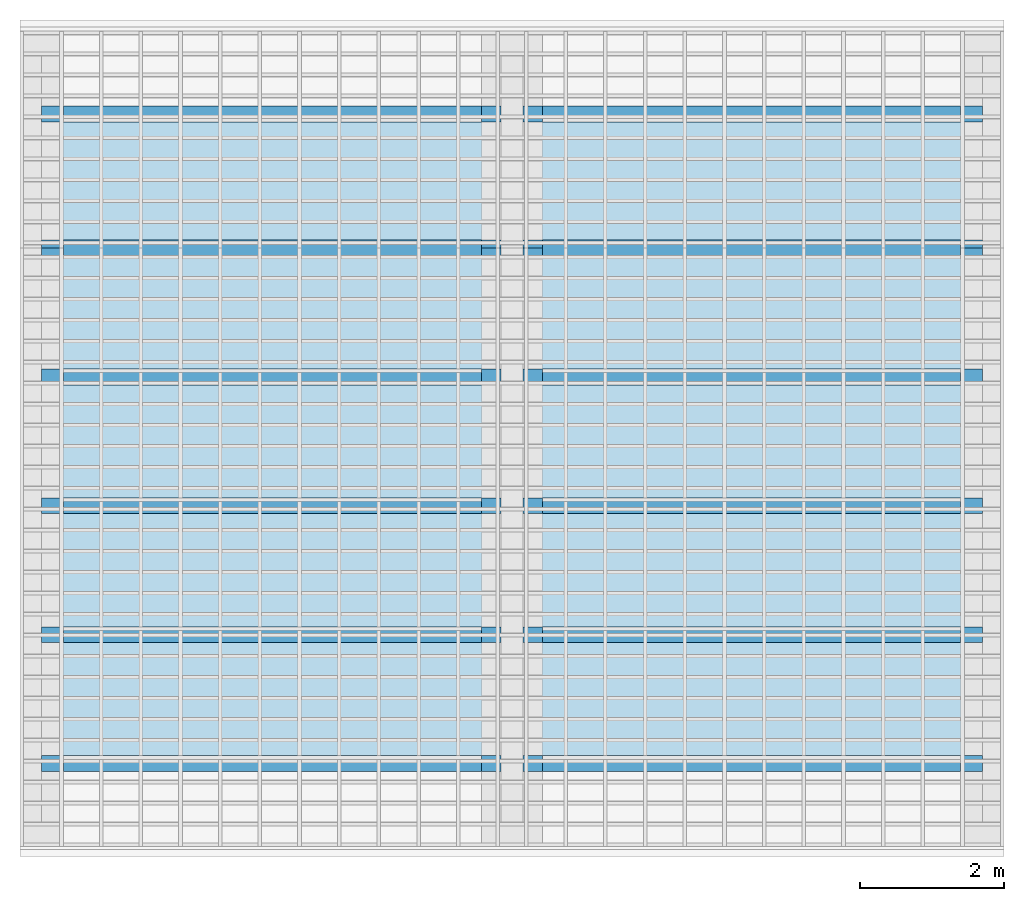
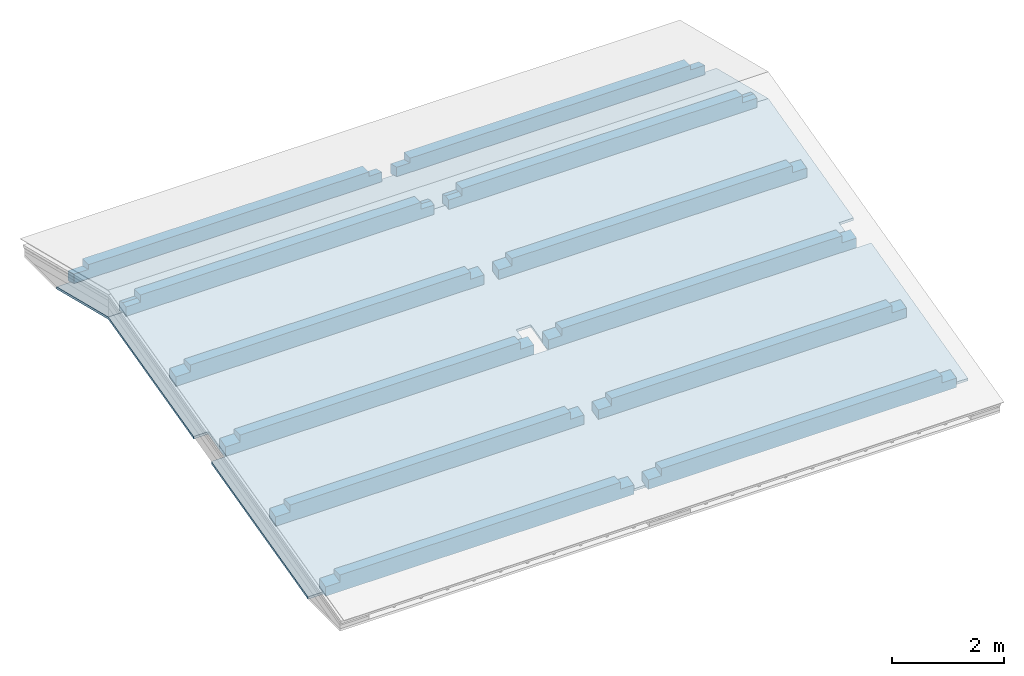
# One storey, part 3 of 3: 12 beams, 1 roof.
"""IFC2X3 building model written with IfcOpenShell, lengths in millimetres."""

from ifc_helpers import new_model, entity, si_unit, converted_unit, derived_unit, money_unit, direction, frame, frame_2d, origin_with_axes, place, context, subcontext, project, spatial, rectangle, extrude, boolean, faceted_brep, material, type_object, element, save


model = new_model("IFC2X3")

# Units and contexts
model_context = context("Model", 3, precision=0.01, world=origin_with_axes(), true_north=direction((0.293984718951, 0.955810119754)))
body_context = subcontext(model_context, "Body", "Model", "MODEL_VIEW")
ifc_project = project(units=[si_unit("LENGTHUNIT", "METRE", prefix="MILLI"), si_unit("AREAUNIT", "SQUARE_METRE"), si_unit("VOLUMEUNIT", "CUBIC_METRE"), converted_unit("PLANEANGLEUNIT", "DEGREE", entity("IfcPlaneAngleMeasure", 0.0174532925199), si_unit("PLANEANGLEUNIT", "RADIAN"), dimensions=[0, 0, 0, 0, 0, 0, 0]), si_unit("SOLIDANGLEUNIT", "STERADIAN"), money_unit("USD"), converted_unit("TIMEUNIT", "Year", entity("IfcTimeMeasure", 31556926.0), si_unit("TIMEUNIT", "SECOND"), dimensions=[0, 0, 1, 0, 0, 0, 0]), si_unit("MASSUNIT", "GRAM", prefix="KILO"), si_unit("THERMODYNAMICTEMPERATUREUNIT", "DEGREE_CELSIUS"), si_unit("LUMINOUSINTENSITYUNIT", "LUMEN"), si_unit("ENERGYUNIT", "JOULE", prefix="MEGA"), derived_unit("THERMALCONDUCTANCEUNIT", [(si_unit("POWERUNIT", "WATT"), 1), (si_unit("LENGTHUNIT", "METRE"), -1), (si_unit("THERMODYNAMICTEMPERATUREUNIT", "KELVIN"), -1)]), derived_unit("SPECIFICHEATCAPACITYUNIT", [(si_unit("ENERGYUNIT", "JOULE"), 1), (si_unit("MASSUNIT", "GRAM", prefix="KILO"), -1), (si_unit("THERMODYNAMICTEMPERATUREUNIT", "KELVIN"), -1)]), derived_unit("MASSDENSITYUNIT", [(si_unit("MASSUNIT", "GRAM", prefix="KILO"), 1), (si_unit("VOLUMEUNIT", "CUBIC_METRE"), -1)])], contexts=[model_context])

# Site, building, storey
site_placement = place(None, origin_with_axes())
site = spatial("IfcSite", under=ifc_project, at=site_placement, Name="Local", CompositionType="ELEMENT")
building_placement = place(site_placement, origin_with_axes())
building = spatial("IfcBuilding", under=site, at=building_placement, Name="Construção", CompositionType="ELEMENT")
storey_placement = place(building_placement, frame((0.0, 0.0, 5800.0), z_axis=(0.0, 0.0, 1.0), x_axis=(1.0, 0.0, 0.0)))
storey = spatial("IfcBuildingStorey", under=building, at=storey_placement, Name="Pavimento Cobertura", CompositionType="ELEMENT", Elevation=5800.0)

# Beams
ifc_material = material(Name="Concreto Armado - Estrutural")
beam_type = type_object("IfcBeamType", Name="Concreto Armado - Estrutural 220 x 360", PredefinedType="NOTDEFINED")
beam_1_placement = place(storey_placement, frame((20349.6450723, 12645.6308554, 23.3602179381), z_axis=(0.0, 0.0, 1.0), x_axis=(0.0, 1.0, 0.0)))
element("IfcBeam", 1, at=beam_1_placement, inside=storey, type_object=beam_type, material=ifc_material, Name="V13", context=body_context, shape_type="CSG", body=[
    boolean("DIFFERENCE", boolean("DIFFERENCE", boolean("DIFFERENCE", extrude(rectangle(XDim=360.0, YDim=220.0, at=frame_2d((180.0, 0.0), x_axis=(1.0, 0.0))), frame((0.0, 0.0, 0.0), z_axis=(0.0, 1.0, 0.0), x_axis=(0.0, 0.0, 1.0)), (0.0, 0.0, 1.0), 6370.0000003), faceted_brep([(-110.0, 6094.99999959, 360.0), (109.999999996, 6094.99999959, 359.999999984), (110.0, 6370.0000003, 360.0), (-110.0, 6370.0000003, 360.0), (110.000000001, 6094.99999959, 205.407955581), (-110.0, 6094.99999959, 260.260116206), (110.0, 6370.0000003, 205.407955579), (-110.0, 6370.0000003, 260.260116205)], [[[0, 1, 2, 3]], [[4, 1, 0, 5]], [[4, 6, 2, 1]], [[6, 7, 3, 2]], [[5, 0, 3, 7]], [[6, 4, 5, 7]]])), faceted_brep([(-99.5450602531, 6370.0000003, 0.0), (-99.5450603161, 0.0, 0.0), (-110.0, 0.0, 0.0), (-110.0, 6370.0000003, 0.0), (-110.0, 0.0, 2.60670923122), (-110.0, 6370.0000003, 2.60670924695)], [[[0, 1, 2, 3]], [[4, 1, 0, 5]], [[1, 4, 2]], [[4, 5, 3, 2]], [[5, 0, 3]]])), faceted_brep([(-110.0, 0.0, 260.260116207), (110.0, 0.0, 205.407955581), (110.0, 0.0, 360.0), (-110.0, 0.0, 360.0), (110.0, 300.000000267, 205.407955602), (-110.0, 300.000000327, 260.260116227), (110.000000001, 300.000000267, 360.000000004), (-110.0, 300.000000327, 360.0)], [[[0, 1, 2, 3]], [[4, 1, 0, 5]], [[4, 6, 2, 1]], [[6, 7, 3, 2]], [[5, 0, 3, 7]], [[7, 6, 4, 5]]])),
])
beam_2_placement = place(storey_placement, frame((20349.6450715, 10787.3064983, 486.692518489), z_axis=(0.0, 0.0, 1.0), x_axis=(0.0, 1.0, 0.0)))
element("IfcBeam", 2, at=beam_2_placement, inside=storey, type_object=beam_type, material=ifc_material, Name="V13", context=body_context, shape_type="CSG", body=[
    boolean("DIFFERENCE", boolean("DIFFERENCE", extrude(rectangle(XDim=360.0, YDim=220.0, at=frame_2d((180.0, 0.0), x_axis=(1.0, 0.0))), frame((0.0, 0.0, 0.0), z_axis=(0.0, 1.0, 0.0), x_axis=(0.0, 0.0, 1.0)), (0.0, 0.0, 1.0), 6369.99999874), faceted_brep([(-110.000000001, 6094.99999874, 360.000000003), (109.999999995, 6094.99999875, 359.999999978), (110.0, 6369.99999874, 360.0), (-110.0, 6369.99999874, 360.0), (110.0, 6094.99999875, 205.407955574), (-110.0, 6094.99999874, 205.407955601), (-5.32303090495e-08, 6094.99999874, 232.8340359), (110.0, 6369.99999874, 205.407955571), (-6.13002981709e-08, 6369.99999874, 232.834035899), (-110.0, 6369.99999874, 205.407955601)], [[[0, 1, 2, 3]], [[4, 1, 0, 5, 6]], [[4, 7, 2, 1]], [[8, 9, 3, 2, 7]], [[5, 0, 3, 9]], [[5, 9, 8, 6]], [[7, 4, 6, 8]]])), faceted_brep([(-110.0, 0.0, 205.407955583), (6.63593624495e-08, 0.0, 232.834035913), (110.0, 0.0, 205.407955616), (110.0, 0.0, 360.0), (-110.0, 0.0, 360.0), (-110.0, 299.999999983, 205.407955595), (7.92788057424e-08, 300.0, 232.834035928), (110.0, 299.999999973, 205.407955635), (110.000000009, 299.999999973, 360.000000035), (-109.999999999, 299.999999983, 359.999999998)], [[[0, 1, 2, 3, 4]], [[1, 0, 5, 6]], [[7, 2, 1, 6]], [[7, 8, 3, 2]], [[8, 9, 4, 3]], [[5, 0, 4, 9]], [[9, 8, 7, 6, 5]]])),
])
beam_3_placement = place(storey_placement, frame((20349.6450715, 9000.43149838, 41.1745407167), z_axis=(0.0, 0.0, 1.0), x_axis=(0.0, 1.0, 0.0)))
element("IfcBeam", 3, at=beam_3_placement, inside=storey, type_object=beam_type, material=ifc_material, Name="V13", context=body_context, shape_type="CSG", body=[
    boolean("DIFFERENCE", boolean("DIFFERENCE", boolean("DIFFERENCE", extrude(rectangle(XDim=360.0, YDim=220.0, at=frame_2d((180.0, 0.0), x_axis=(1.0, 0.0))), frame((0.0, 0.0, 0.0), z_axis=(0.0, 1.0, 0.0), x_axis=(0.0, 0.0, 1.0)), (0.0, 0.0, 1.0), 6369.99999874), faceted_brep([(-110.000000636, 6094.99999876, 360.000002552), (110.0, 6094.99999876, 360.0), (110.0, 6369.99999874, 360.0), (-110.0, 6369.99999874, 360.0), (110.0, 6094.99999876, 260.260118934), (-110.0, 6094.99999876, 205.407958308), (110.0, 6369.99999874, 260.260118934), (-110.0, 6369.99999874, 205.407958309)], [[[0, 1, 2, 3]], [[4, 1, 0, 5]], [[4, 6, 2, 1]], [[6, 7, 3, 2]], [[5, 0, 3, 7]], [[6, 4, 5, 7]]])), faceted_brep([(110.0, 6369.99999874, 2.60671178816), (110.0, 0.0, 2.60671176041), (110.0, 0.0, 0.0), (110.0, 6369.99999874, 0.0), (99.5450501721, 0.0, 0.0), (99.5450500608, 6369.99999874, 0.0)], [[[0, 1, 2, 3]], [[4, 1, 0, 5]], [[1, 4, 2]], [[4, 5, 3, 2]], [[5, 0, 3]]])), faceted_brep([(-110.0, 0.0, 205.407958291), (110.0, 0.0, 260.260118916), (110.0, 0.0, 360.0), (-110.0, 0.0, 360.0), (110.0, 299.99999977, 260.260118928), (-110.0, 299.999999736, 205.407958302), (110.0, 299.99999977, 360.0), (-110.000000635, 299.999999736, 360.000002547)], [[[0, 1, 2, 3]], [[4, 1, 0, 5]], [[4, 6, 2, 1]], [[6, 7, 3, 2]], [[5, 0, 3, 7]], [[7, 6, 4, 5]]])),
])
beam_4_placement = place(storey_placement, frame((20349.6450715, 7213.55649844, -404.343437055), z_axis=(0.0, 0.0, 1.0), x_axis=(0.0, 1.0, 0.0)))
element("IfcBeam", 4, at=beam_4_placement, inside=storey, type_object=beam_type, material=ifc_material, Name="V13", context=body_context, shape_type="CSG", body=[
    boolean("DIFFERENCE", boolean("DIFFERENCE", boolean("DIFFERENCE", extrude(rectangle(XDim=360.0, YDim=220.0, at=frame_2d((180.0, 0.0), x_axis=(1.0, 0.0))), frame((0.0, 0.0, 0.0), z_axis=(0.0, 1.0, 0.0), x_axis=(0.0, 0.0, 1.0)), (0.0, 0.0, 1.0), 6369.99999874), faceted_brep([(-110.000001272, 6094.99999879, 360.000005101), (110.0, 6094.99999879, 360.0), (110.0, 6369.99999874, 360.0), (-110.0, 6369.99999874, 360.0), (110.0, 6094.99999879, 260.260121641), (-110.0, 6094.99999879, 205.407961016), (110.0, 6369.99999874, 260.260121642), (-110.0, 6369.99999874, 205.407961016)], [[[0, 1, 2, 3]], [[4, 1, 0, 5]], [[4, 6, 2, 1]], [[6, 7, 3, 2]], [[5, 0, 3, 7]], [[6, 4, 5, 7]]])), faceted_brep([(110.0, 6369.99999874, 2.60671449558), (110.0, 0.0, 2.60671446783), (110.0, 0.0, 0.0), (110.0, 6369.99999874, 0.0), (99.5450393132, 0.0, 0.0), (99.545039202, 6369.99999874, 0.0)], [[[0, 1, 2, 3]], [[4, 1, 0, 5]], [[1, 4, 2]], [[4, 5, 3, 2]], [[5, 0, 3]]])), faceted_brep([(-110.0, 0.0, 205.407960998), (110.0, 0.0, 260.260121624), (110.0, 0.0, 360.0), (-110.0, 0.0, 360.0), (110.0, 299.999999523, 260.260121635), (-110.0, 299.999999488, 205.40796101), (110.0, 299.999999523, 360.0), (-110.00000127, 299.999999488, 360.000005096)], [[[0, 1, 2, 3]], [[4, 1, 0, 5]], [[4, 6, 2, 1]], [[6, 7, 3, 2]], [[5, 0, 3, 7]], [[7, 6, 4, 5]]])),
])
beam_5_placement = place(storey_placement, frame((20349.6450715, 5426.6814985, -849.861414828), z_axis=(0.0, 0.0, 1.0), x_axis=(0.0, 1.0, 0.0)))
element("IfcBeam", 5, at=beam_5_placement, inside=storey, type_object=beam_type, material=ifc_material, Name="V13", context=body_context, shape_type="CSG", body=[
    boolean("DIFFERENCE", boolean("DIFFERENCE", boolean("DIFFERENCE", extrude(rectangle(XDim=360.0, YDim=220.0, at=frame_2d((180.0, 0.0), x_axis=(1.0, 0.0))), frame((0.0, 0.0, 0.0), z_axis=(0.0, 1.0, 0.0), x_axis=(0.0, 0.0, 1.0)), (0.0, 0.0, 1.0), 6369.99999874), faceted_brep([(-110.000001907, 6094.99999881, 360.00000765), (110.0, 6094.99999881, 360.0), (110.0, 6369.99999874, 360.0), (-110.0, 6369.99999874, 360.0), (110.0, 6094.99999881, 260.260124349), (-110.0, 6094.99999881, 205.407963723), (110.0, 6369.99999874, 260.260124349), (-110.0, 6369.99999874, 205.407963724)], [[[0, 1, 2, 3]], [[4, 1, 0, 5]], [[4, 6, 2, 1]], [[6, 7, 3, 2]], [[5, 0, 3, 7]], [[6, 4, 5, 7]]])), faceted_brep([(110.0, 6369.99999874, 2.606717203), (110.0, 0.0, 2.60671717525), (110.0, 0.0, 0.0), (110.0, 6369.99999874, 0.0), (99.5450284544, 0.0, 0.0), (99.5450283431, 6369.99999874, 0.0)], [[[0, 1, 2, 3]], [[4, 1, 0, 5]], [[1, 4, 2]], [[4, 5, 3, 2]], [[5, 0, 3]]])), faceted_brep([(-110.0, 0.0, 205.407963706), (110.0, 0.0, 260.260124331), (110.0, 0.0, 360.0), (-110.0, 0.0, 360.0), (110.0, 299.999999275, 260.260124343), (-110.0, 299.999999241, 205.407963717), (110.0, 299.999999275, 360.0), (-110.000001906, 299.999999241, 360.000007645)], [[[0, 1, 2, 3]], [[4, 1, 0, 5]], [[4, 6, 2, 1]], [[6, 7, 3, 2]], [[5, 0, 3, 7]], [[7, 6, 4, 5]]])),
])
beam_6_placement = place(storey_placement, frame((20349.6450715, 3639.80649857, -1295.3793926), z_axis=(0.0, 0.0, 1.0), x_axis=(0.0, 1.0, 0.0)))
element("IfcBeam", 6, at=beam_6_placement, inside=storey, type_object=beam_type, material=ifc_material, Name="V13", context=body_context, shape_type="CSG", body=[
    boolean("DIFFERENCE", boolean("DIFFERENCE", boolean("DIFFERENCE", extrude(rectangle(XDim=360.0, YDim=220.0, at=frame_2d((180.0, 0.0), x_axis=(1.0, 0.0))), frame((0.0, 0.0, 0.0), z_axis=(0.0, 1.0, 0.0), x_axis=(0.0, 0.0, 1.0)), (0.0, 0.0, 1.0), 6369.99999874), faceted_brep([(-110.000002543, 6094.99999884, 360.000010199), (110.0, 6094.99999884, 360.0), (110.0, 6369.99999874, 360.0), (-110.0, 6369.99999874, 360.0), (110.0, 6094.99999884, 260.260127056), (-110.0, 6094.99999884, 205.407966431), (110.0, 6369.99999874, 260.260127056), (-110.0, 6369.99999874, 205.407966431)], [[[0, 1, 2, 3]], [[4, 1, 0, 5]], [[4, 6, 2, 1]], [[6, 7, 3, 2]], [[5, 0, 3, 7]], [[6, 4, 5, 7]]])), faceted_brep([(110.0, 6369.99999874, 2.60671991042), (110.0, 0.0, 2.60671988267), (110.0, 0.0, 0.0), (110.0, 6369.99999874, 0.0), (99.5450175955, 0.0, 0.0), (99.5450174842, 6369.99999874, 0.0)], [[[0, 1, 2, 3]], [[4, 1, 0, 5]], [[1, 4, 2]], [[4, 5, 3, 2]], [[5, 0, 3]]])), faceted_brep([(-110.0, 0.0, 205.407966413), (110.0, 0.0, 260.260127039), (110.0, 0.0, 360.0), (-110.0, 0.0, 360.0), (110.0, 299.999999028, 260.26012705), (-110.0, 299.999998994, 205.407966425), (110.0, 299.999999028, 360.0), (-110.000002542, 299.999998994, 360.000010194)], [[[0, 1, 2, 3]], [[4, 1, 0, 5]], [[4, 6, 2, 1]], [[6, 7, 3, 2]], [[5, 0, 3, 7]], [[7, 6, 4, 5]]])),
])
beam_7_placement = place(storey_placement, frame((13679.6450722, 12645.6308553, 23.3602179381), z_axis=(0.0, 0.0, 1.0), x_axis=(0.0, 1.0, 0.0)))
element("IfcBeam", 7, at=beam_7_placement, inside=storey, type_object=beam_type, material=ifc_material, Name="V13", context=body_context, shape_type="CSG", body=[
    boolean("DIFFERENCE", boolean("DIFFERENCE", boolean("DIFFERENCE", extrude(rectangle(XDim=360.0, YDim=220.0, at=frame_2d((180.0, 0.0), x_axis=(1.0, 0.0))), frame((0.0, 0.0, 0.0), z_axis=(0.0, 1.0, 0.0), x_axis=(0.0, 0.0, 1.0)), (0.0, 0.0, 1.0), 6370.0000003), faceted_brep([(-110.0, 6069.9999996, 360.0), (110.000000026, 6069.99999976, 360.000000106), (110.0, 6370.0000003, 360.0), (-110.0, 6370.0000003, 360.0), (110.0, 6069.99999976, 205.40795571), (-110.0, 6069.9999996, 260.260116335), (110.0, 6370.0000003, 205.407955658), (-110.0, 6370.0000003, 260.260116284)], [[[0, 1, 2, 3]], [[4, 1, 0, 5]], [[4, 6, 2, 1]], [[6, 7, 3, 2]], [[5, 0, 3, 7]], [[6, 4, 5, 7]]])), faceted_brep([(-99.5450601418, 6370.0000003, 0.0), (-99.5450602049, 0.0, 0.0), (-110.0, 0.0, 0.0), (-110.0, 6370.0000003, 0.0), (-110.0, 0.0, 2.60670925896), (-110.0, 6370.0000003, 2.60670927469)], [[[0, 1, 2, 3]], [[4, 1, 0, 5]], [[1, 4, 2]], [[4, 5, 3, 2]], [[5, 0, 3]]])), faceted_brep([(-110.0, 0.0, 260.260116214), (110.0, 0.0, 205.407955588), (110.0, 0.0, 360.0), (-110.0, 0.0, 360.0), (110.0, 274.999999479, 205.407955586), (-110.0, 274.999999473, 260.260116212), (109.999999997, 274.999999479, 359.99999999), (-110.0, 274.999999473, 360.0)], [[[0, 1, 2, 3]], [[4, 1, 0, 5]], [[4, 6, 2, 1]], [[6, 7, 3, 2]], [[5, 0, 3, 7]], [[7, 6, 4, 5]]])),
])
beam_8_placement = place(storey_placement, frame((13679.6450714, 10787.3064982, 486.692518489), z_axis=(0.0, 0.0, 1.0), x_axis=(0.0, 1.0, 0.0)))
element("IfcBeam", 8, at=beam_8_placement, inside=storey, type_object=beam_type, material=ifc_material, Name="V13", context=body_context, shape_type="CSG", body=[
    boolean("DIFFERENCE", boolean("DIFFERENCE", extrude(rectangle(XDim=360.0, YDim=220.0, at=frame_2d((180.0, 0.0), x_axis=(1.0, 0.0))), frame((0.0, 0.0, 0.0), z_axis=(0.0, 1.0, 0.0), x_axis=(0.0, 0.0, 1.0)), (0.0, 0.0, 1.0), 6369.99999874), faceted_brep([(-109.999999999, 6069.9999976, 359.999999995), (110.000000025, 6069.99999767, 360.0000001), (110.0, 6369.99999874, 360.0), (-110.0, 6369.99999874, 360.0), (110.0, 6069.99999767, 205.407955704), (-110.0, 6069.9999976, 205.407955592), (2.23101537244e-07, 6069.99999759, 232.834035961), (110.0, 6369.99999874, 205.40795565), (1.33027810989e-07, 6369.99999874, 232.834035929), (-110.0, 6369.99999874, 205.407955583)], [[[0, 1, 2, 3]], [[4, 1, 0, 5, 6]], [[4, 7, 2, 1]], [[8, 9, 3, 2, 7]], [[5, 0, 3, 9]], [[5, 9, 8, 6]], [[7, 4, 6, 8]]])), faceted_brep([(-110.0, 0.0, 205.407955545), (1.57687196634e-07, 0.0, 232.834035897), (110.0, 0.0, 205.407955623), (110.0, 0.0, 360.0), (-110.0, 0.0, 360.0), (-109.999999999, 274.999998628, 205.407955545), (1.49615431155e-07, 274.999998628, 232.834035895), (110.0, 274.999998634, 205.40795562), (110.000000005, 274.999998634, 360.000000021), (-109.999999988, 274.999998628, 359.999999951)], [[[0, 1, 2, 3, 4]], [[1, 0, 5, 6]], [[7, 2, 1, 6]], [[7, 8, 3, 2]], [[8, 9, 4, 3]], [[5, 0, 4, 9]], [[9, 8, 7, 6, 5]]])),
])
beam_9_placement = place(storey_placement, frame((13679.6450714, 9000.43149827, 41.1745407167), z_axis=(0.0, 0.0, 1.0), x_axis=(0.0, 1.0, 0.0)))
element("IfcBeam", 9, at=beam_9_placement, inside=storey, type_object=beam_type, material=ifc_material, Name="V13", context=body_context, shape_type="CSG", body=[
    boolean("DIFFERENCE", boolean("DIFFERENCE", boolean("DIFFERENCE", extrude(rectangle(XDim=360.0, YDim=220.0, at=frame_2d((180.0, 0.0), x_axis=(1.0, 0.0))), frame((0.0, 0.0, 0.0), z_axis=(0.0, 1.0, 0.0), x_axis=(0.0, 0.0, 1.0)), (0.0, 0.0, 1.0), 6369.99999874), faceted_brep([(-110.000000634, 6069.99999785, 360.000002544), (110.0, 6069.99999783, 360.0), (110.0, 6369.99999874, 360.0), (-110.0, 6369.99999874, 360.0), (110.0, 6069.99999783, 260.260118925), (-110.0, 6069.99999785, 205.4079583), (110.0, 6369.99999874, 260.260118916), (-110.0, 6369.99999874, 205.407958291)], [[[0, 1, 2, 3]], [[4, 1, 0, 5]], [[4, 6, 2, 1]], [[6, 7, 3, 2]], [[5, 0, 3, 7]], [[6, 4, 5, 7]]])), faceted_brep([(110.0, 6369.99999874, 2.60671176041), (110.0, 0.0, 2.60671173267), (110.0, 0.0, 0.0), (110.0, 6369.99999874, 0.0), (99.5450502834, 0.0, 0.0), (99.5450501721, 6369.99999874, 0.0)], [[[0, 1, 2, 3]], [[4, 1, 0, 5]], [[1, 4, 2]], [[4, 5, 3, 2]], [[5, 0, 3]]])), faceted_brep([(-110.0, 0.0, 205.407958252), (110.0, 0.0, 260.260118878), (110.0, 0.0, 360.0), (-110.0, 0.0, 360.0), (110.0, 274.999998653, 260.260118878), (-110.0, 274.999998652, 205.407958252), (110.0, 274.999998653, 360.0), (-110.000000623, 274.999998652, 360.0000025)], [[[0, 1, 2, 3]], [[4, 1, 0, 5]], [[4, 6, 2, 1]], [[6, 7, 3, 2]], [[5, 0, 3, 7]], [[7, 6, 4, 5]]])),
])
beam_10_placement = place(storey_placement, frame((13679.6450714, 7213.55649833, -404.343437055), z_axis=(0.0, 0.0, 1.0), x_axis=(0.0, 1.0, 0.0)))
element("IfcBeam", 10, at=beam_10_placement, inside=storey, type_object=beam_type, material=ifc_material, Name="V13", context=body_context, shape_type="CSG", body=[
    boolean("DIFFERENCE", boolean("DIFFERENCE", boolean("DIFFERENCE", extrude(rectangle(XDim=360.0, YDim=220.0, at=frame_2d((180.0, 0.0), x_axis=(1.0, 0.0))), frame((0.0, 0.0, 0.0), z_axis=(0.0, 1.0, 0.0), x_axis=(0.0, 0.0, 1.0)), (0.0, 0.0, 1.0), 6369.99999874), faceted_brep([(-110.00000127, 6069.9999981, 360.000005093), (110.0, 6069.99999807, 360.0), (110.0, 6369.99999874, 360.0), (-110.0, 6369.99999874, 360.0), (110.0, 6069.99999807, 260.260121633), (-110.0, 6069.9999981, 205.407961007), (110.0, 6369.99999874, 260.260121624), (-110.0, 6369.99999874, 205.407960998)], [[[0, 1, 2, 3]], [[4, 1, 0, 5]], [[4, 6, 2, 1]], [[6, 7, 3, 2]], [[5, 0, 3, 7]], [[6, 4, 5, 7]]])), faceted_brep([(110.0, 6369.99999874, 2.60671446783), (110.0, 0.0, 2.60671444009), (110.0, 0.0, 0.0), (110.0, 6369.99999874, 0.0), (99.5450394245, 0.0, 0.0), (99.5450393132, 6369.99999874, 0.0)], [[[0, 1, 2, 3]], [[4, 1, 0, 5]], [[1, 4, 2]], [[4, 5, 3, 2]], [[5, 0, 3]]])), faceted_brep([(-110.0, 0.0, 205.40796096), (110.0, 0.0, 260.260121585), (110.0, 0.0, 360.0), (-110.0, 0.0, 360.0), (110.0, 274.999998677, 260.260121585), (-110.0, 274.999998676, 205.40796096), (110.0, 274.999998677, 360.0), (-110.000001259, 274.999998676, 360.000005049)], [[[0, 1, 2, 3]], [[4, 1, 0, 5]], [[4, 6, 2, 1]], [[6, 7, 3, 2]], [[5, 0, 3, 7]], [[7, 6, 4, 5]]])),
])
beam_11_placement = place(storey_placement, frame((13679.6450714, 5426.68149839, -849.861414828), z_axis=(0.0, 0.0, 1.0), x_axis=(0.0, 1.0, 0.0)))
element("IfcBeam", 11, at=beam_11_placement, inside=storey, type_object=beam_type, material=ifc_material, Name="V13", context=body_context, shape_type="CSG", body=[
    boolean("DIFFERENCE", boolean("DIFFERENCE", boolean("DIFFERENCE", extrude(rectangle(XDim=360.0, YDim=220.0, at=frame_2d((180.0, 0.0), x_axis=(1.0, 0.0))), frame((0.0, 0.0, 0.0), z_axis=(0.0, 1.0, 0.0), x_axis=(0.0, 0.0, 1.0)), (0.0, 0.0, 1.0), 6369.99999874), faceted_brep([(-110.000001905, 6069.99999835, 360.000007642), (110.0, 6069.99999832, 360.0), (110.0, 6369.99999874, 360.0), (-110.0, 6369.99999874, 360.0), (110.0, 6069.99999832, 260.26012434), (-110.0, 6069.99999835, 205.407963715), (110.0, 6369.99999874, 260.260124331), (-110.0, 6369.99999874, 205.407963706)], [[[0, 1, 2, 3]], [[4, 1, 0, 5]], [[4, 6, 2, 1]], [[6, 7, 3, 2]], [[5, 0, 3, 7]], [[6, 4, 5, 7]]])), faceted_brep([(110.0, 6369.99999874, 2.60671717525), (110.0, 0.0, 2.60671714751), (110.0, 0.0, 0.0), (110.0, 6369.99999874, 0.0), (99.5450285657, 0.0, 0.0), (99.5450284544, 6369.99999874, 0.0)], [[[0, 1, 2, 3]], [[4, 1, 0, 5]], [[1, 4, 2]], [[4, 5, 3, 2]], [[5, 0, 3]]])), faceted_brep([(-110.0, 0.0, 205.407963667), (110.0, 0.0, 260.260124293), (110.0, 0.0, 360.0), (-110.0, 0.0, 360.0), (110.0, 274.999998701, 260.260124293), (-110.0, 274.9999987, 205.407963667), (110.0, 274.999998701, 360.0), (-110.000001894, 274.9999987, 360.000007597)], [[[0, 1, 2, 3]], [[4, 1, 0, 5]], [[4, 6, 2, 1]], [[6, 7, 3, 2]], [[5, 0, 3, 7]], [[7, 6, 4, 5]]])),
])
beam_12_placement = place(storey_placement, frame((13679.6450714, 3639.80649845, -1295.3793926), z_axis=(0.0, 0.0, 1.0), x_axis=(0.0, 1.0, 0.0)))
element("IfcBeam", 12, at=beam_12_placement, inside=storey, type_object=beam_type, material=ifc_material, Name="V13", context=body_context, shape_type="CSG", body=[
    boolean("DIFFERENCE", boolean("DIFFERENCE", boolean("DIFFERENCE", extrude(rectangle(XDim=360.0, YDim=220.0, at=frame_2d((180.0, 0.0), x_axis=(1.0, 0.0))), frame((0.0, 0.0, 0.0), z_axis=(0.0, 1.0, 0.0), x_axis=(0.0, 0.0, 1.0)), (0.0, 0.0, 1.0), 6369.99999874), faceted_brep([(-110.000002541, 6069.99999859, 360.000010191), (110.0, 6069.99999857, 360.0), (110.0, 6369.99999874, 360.0), (-110.0, 6369.99999874, 360.0), (110.0, 6069.99999857, 260.260127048), (-110.0, 6069.99999859, 205.407966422), (110.0, 6369.99999874, 260.260127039), (-110.0, 6369.99999874, 205.407966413)], [[[0, 1, 2, 3]], [[4, 1, 0, 5]], [[4, 6, 2, 1]], [[6, 7, 3, 2]], [[5, 0, 3, 7]], [[6, 4, 5, 7]]])), faceted_brep([(110.0, 6369.99999874, 2.60671988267), (110.0, 0.0, 2.60671985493), (110.0, 0.0, 0.0), (110.0, 6369.99999874, 0.0), (99.5450177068, 0.0, 0.0), (99.5450175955, 6369.99999874, 0.0)], [[[0, 1, 2, 3]], [[4, 1, 0, 5]], [[1, 4, 2]], [[4, 5, 3, 2]], [[5, 0, 3]]])), faceted_brep([(-110.0, 0.0, 205.407966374), (110.0, 0.0, 260.260127), (110.0, 0.0, 360.0), (-110.0, 0.0, 360.0), (110.0, 274.999998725, 260.260127), (-110.0, 274.999998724, 205.407966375), (110.0, 274.999998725, 360.0), (-110.00000253, 274.999998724, 360.000010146)], [[[0, 1, 2, 3]], [[4, 1, 0, 5]], [[4, 6, 2, 1]], [[6, 7, 3, 2]], [[5, 0, 3, 7]], [[7, 6, 4, 5]]])),
])

# Roof
roof_placement = place(storey_placement, frame((13829.6450727, 8139.80649878, -0.00697828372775), z_axis=(0.0, 0.0, 1.0), x_axis=(1.0, 0.0, 0.0)))
element("IfcRoof", 13, at=roof_placement, inside=storey, material=ifc_material, Name="Laje de cobertura", ShapeType="NOTDEFINED", context=body_context, shape_type="Brep", body=[
    faceted_brep([(-6820.00000027, -4500.00000017, -1320.19177473), (-6820.00000084, -1039.1743009, -457.311014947), (-6520.0, -1039.1743009, -457.311014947), (-6520.0, -826.704961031, -404.336458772), (-150.0, -826.704961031, -404.336458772), (-150.0, -1039.1743009, -457.311014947), (150.0, -1039.1743009, -457.311014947), (150.0, -826.704961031, -404.336458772), (6520.0, -826.704961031, -404.336458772), (6520.0, -1039.1743009, -457.311014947), (6819.99999945, -1039.1743009, -457.311014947), (6820.00000033, -4500.00000017, -1320.19177473), (-6520.0, -4390.00000022, -1292.76569443), (-6520.0, -4400.45498262, -1295.37241432), (-150.000001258, -4400.45498262, -1295.37241432), (-150.000001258, -4390.00000033, -1292.76569446), (-6520.0, -2603.12500028, -847.247719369), (-6520.0, -2613.57997183, -849.854436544), (-150.000001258, -2613.57997183, -849.854436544), (-150.000001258, -2603.12500039, -847.247719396), (150.000000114, -4390.00000011, -1292.76569441), (150.000000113, -4400.45498262, -1295.37241432), (6519.99999885, -4400.45498262, -1295.37241432), (6519.99999885, -4390.00000022, -1292.76569443), (150.000000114, -2603.12500017, -847.247719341), (150.000000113, -2613.57997183, -849.854436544), (6519.99999885, -2613.57997183, -849.854436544), (6519.99999885, -2603.12500028, -847.247719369), (-6820.0, -4500.0, -1268.66109342), (-6820.00000084, -1039.1743009, -405.780333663), (-6520.0, -1039.1743009, -405.780333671), (-6520.0, -1033.38323498, -404.336458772), (-150.0, -1033.38323498, -404.336458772), (-150.0, -1039.1743009, -405.780333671), (150.0, -1039.1743009, -405.780333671), (150.0, -1033.38323498, -404.336458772), (6520.0, -1033.38323498, -404.336458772), (6520.0, -1039.1743009, -405.780333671), (6819.99999944, -1039.1743009, -405.780333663), (6820.0, -4500.0, -1268.66109342), (6519.99999885, -4500.00000017, -1295.37241432), (150.000000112, -4500.00000017, -1295.37241432), (150.000000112, -4500.00000017, -1268.66110429), (-150.00000126, -4500.00000017, -1268.66110429), (-150.00000126, -4500.00000017, -1295.37241432), (-6520.0, -4500.00000017, -1295.37241432), (-6520.0, -4500.00000017, -1268.66110429), (6519.99999885, -4500.00000017, -1268.66110429), (-6520.0, -4390.00000022, -1241.23501316), (-150.000001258, -4390.00000033, -1241.23501319), (-6520.0, -2603.12500028, -795.717038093), (-6520.0, -2820.25824578, -849.854436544), (-150.000001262, -2820.25824578, -849.854436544), (-150.000001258, -2603.12500039, -795.717038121), (150.000000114, -4390.00000011, -1241.23501313), (6519.99999885, -4390.00000022, -1241.23501316), (150.000000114, -2603.12500017, -795.717038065), (150.00000011, -2820.25824578, -849.854436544), (6519.99999885, -2820.25824578, -849.854436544), (6519.99999885, -2603.12500028, -795.717038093)], [[[0, 1, 2, 3, 4, 5, 6, 7, 8, 9, 10, 11], [12, 13, 14, 15], [16, 17, 18, 19], [20, 21, 22, 23], [24, 25, 26, 27]], [[28, 29, 1, 0]], [[1, 29, 30, 2]], [[30, 31, 3, 2]], [[4, 3, 31, 32]], [[33, 5, 4, 32]], [[5, 33, 34, 6]], [[34, 35, 7, 6]], [[8, 7, 35, 36]], [[37, 9, 8, 36]], [[9, 37, 38, 10]], [[11, 10, 38, 39]], [[40, 41, 42, 43, 44, 45, 46, 28, 0, 11, 39, 47]], [[12, 48, 46, 45, 13]], [[44, 14, 13, 45]], [[44, 43, 49, 15, 14]], [[15, 49, 48, 12]], [[16, 50, 51, 17]], [[52, 18, 17, 51]], [[18, 52, 53, 19]], [[19, 53, 50, 16]], [[20, 54, 42, 41, 21]], [[40, 22, 21, 41]], [[40, 47, 55, 23, 22]], [[23, 55, 54, 20]], [[24, 56, 57, 25]], [[58, 26, 25, 57]], [[26, 58, 59, 27]], [[27, 59, 56, 24]], [[31, 30, 29, 28, 46, 48, 49, 43, 42, 54, 55, 47, 39, 38, 37, 36, 35, 34, 33, 32], [52, 51, 50, 53], [58, 57, 56, 59]]]),
    faceted_brep([(-6820.000001, -404.106454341, -247.440135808), (-6520.0, -404.106454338, -247.440135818), (-6520.0, -816.250000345, -350.199063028), (-150.0, -816.250000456, -350.199063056), (-150.0, -404.106454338, -247.440135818), (150.0, -404.106454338, -247.440135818), (150.0, -816.250000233, -350.199063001), (6520.0, -816.250000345, -350.199063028), (6520.0, -404.106454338, -247.440135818), (6819.99999934, -404.10645434, -247.440135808), (6819.99999885, 2647.49999958, 513.4108068), (6519.99999885, 2647.49999958, 513.4108068), (6519.99999885, 2540.36678661, 486.699496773), (150.00000011, 2540.36678661, 486.699496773), (150.000000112, 2647.49999958, 513.4108068), (-150.00000126, 2647.49999958, 513.4108068), (-150.000001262, 2540.36678661, 486.699496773), (-6520.0, 2540.36678661, 486.699496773), (-6520.0, 2647.49999958, 513.4108068), (-6820.00000174, 2647.49999958, 513.4108068), (-150.000001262, 753.491775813, 41.1815190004), (-6520.0, 753.491775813, 41.1815190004), (-6520.0, 970.624999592, 95.3189120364), (-150.000001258, 970.624999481, 95.3189120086), (6519.99999885, 753.491775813, 41.1815190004), (150.00000011, 753.491775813, 41.1815190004), (150.000000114, 970.624999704, 95.3189120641), (6519.99999885, 970.624999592, 95.3189120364), (-6520.0, -407.263565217, -299.757973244), (-6820.00000099, -407.26356522, -299.757973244), (-6520.0, -816.250000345, -401.729744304), (-150.0, -816.250000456, -401.729744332), (-150.0, -407.263565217, -299.757973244), (150.0, -407.263565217, -299.757973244), (150.0, -816.250000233, -401.729744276), (6520.0, -816.250000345, -401.729744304), (6520.0, -407.263565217, -299.757973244), (6819.99999935, -407.26356522, -299.757973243), (6819.99999847, 2647.49999996, 461.880125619), (6519.99999963, 4395.82435661, 77.5045865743), (149.999999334, 4395.82435655, 77.50458659), (149.999999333, 4500.0, 51.5306788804), (-150.000000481, 4500.0, 51.5306788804), (-150.00000048, 4395.8243565, 77.504586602), (-6520.00000078, 4395.82435644, 77.5045866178), (-6520.00000078, 4500.0, 51.5306788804), (-6820.0, 4500.0, 51.530681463), (-6520.0, 2754.63321269, 486.699496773), (-150.000001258, 2754.63321269, 486.699496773), (150.000000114, 2754.63321269, 486.699496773), (6519.99999885, 2754.63321269, 486.699496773), (6820.0, 4500.0, 51.530681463), (6519.99999963, 4500.0, 51.5306788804), (-6820.00000213, 2647.49999996, 461.880125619), (-150.000001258, 960.170049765, 41.1815190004), (-6520.0, 960.170049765, 41.1815190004), (-6520.0, 970.624999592, 43.7882307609), (-150.000001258, 970.624999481, 43.7882307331), (6519.99999885, 960.170049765, 41.1815190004), (150.000000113, 960.170049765, 41.1815190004), (150.000000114, 970.624999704, 43.7882307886), (6519.99999885, 970.624999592, 43.7882307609), (6820.00000018, 4500.00000001, 1.84156689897e-07), (149.999999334, 4395.82435655, 25.9739054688), (6519.99999963, 4395.82435661, 25.9739054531), (149.999999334, 4406.27929629, 23.3671962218), (149.999999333, 4500.0, 23.3671962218), (6519.99999963, 4500.0, 23.3671962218), (-6820.00000042, 4500.00000001, 1.84156689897e-07), (-6520.00000078, 4500.0, 23.3671962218), (-150.000000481, 4500.0, 23.3671962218), (-150.00000048, 4395.8243565, 25.9739054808), (-150.00000048, 4406.27929629, 23.3671962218), (-6520.00000078, 4395.82435644, 25.9739054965), (-6520.00000078, 4406.27929629, 23.3671962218), (6519.99999963, 4406.27929629, 23.3671962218)], [[[0, 1, 2, 3, 4, 5, 6, 7, 8, 9, 10, 11, 12, 13, 14, 15, 16, 17, 18, 19], [20, 21, 22, 23], [24, 25, 26, 27]], [[28, 1, 0, 29]], [[30, 2, 1, 28]], [[3, 2, 30, 31]], [[32, 4, 3, 31]], [[33, 5, 4, 32]], [[34, 6, 5, 33]], [[7, 6, 34, 35]], [[36, 8, 7, 35]], [[36, 37, 9, 8]], [[10, 9, 37, 38]], [[39, 40, 41, 42, 43, 44, 45, 46, 19, 18, 47, 48, 15, 14, 49, 50, 11, 10, 51, 52]], [[12, 11, 50]], [[12, 50, 49, 13]], [[13, 49, 14]], [[16, 15, 48]], [[16, 48, 47, 17]], [[17, 47, 18]], [[53, 29, 0, 19]], [[20, 54, 55, 21]], [[56, 22, 21, 55]], [[57, 23, 22, 56]], [[54, 20, 23, 57]], [[24, 58, 59, 25]], [[60, 26, 25, 59]], [[61, 27, 26, 60]], [[58, 24, 27, 61]], [[30, 28, 29, 53, 38, 37, 36, 35, 34, 33, 32, 31], [56, 55, 54, 57], [60, 59, 58, 61]], [[10, 38, 62, 51]], [[63, 40, 39, 64]], [[65, 66, 41, 40, 63]], [[41, 66, 67, 52, 51, 62, 68, 46, 45, 69, 70, 42]], [[71, 43, 42, 70, 72]], [[73, 44, 43, 71]], [[74, 69, 45, 44, 73]], [[53, 19, 46, 68]], [[64, 39, 52, 67, 75]], [[38, 53, 68, 62], [74, 73, 71, 72], [65, 63, 64, 75]], [[75, 67, 66, 65]], [[72, 70, 69, 74]]]),
])

save(model, "model.ifc")
